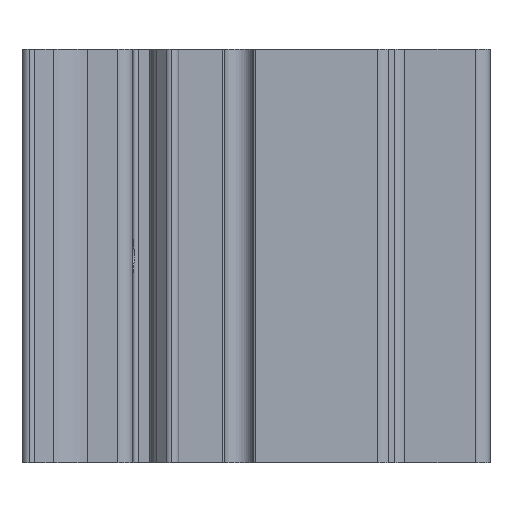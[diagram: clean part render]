
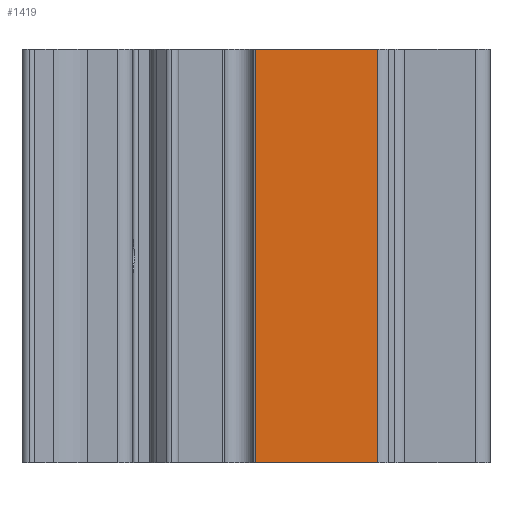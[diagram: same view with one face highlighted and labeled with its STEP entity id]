
A CAD part, left-side view. The second image highlights one B-rep face of the part: STEP entity #1419.
In plain terms, the highlighted planar face has unit normal (-1, 0, 0).
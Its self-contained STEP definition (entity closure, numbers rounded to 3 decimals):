
#211 = CARTESIAN_POINT ( 'NONE',  ( -25.5, 22.82, -42. ) ) ;
#240 = CARTESIAN_POINT ( 'NONE',  ( -25.5, 22.82, -42. ) ) ;
#271 = CARTESIAN_POINT ( 'NONE',  ( -25.5, 22.82, 42. ) ) ;
#329 = DIRECTION ( 'NONE',  ( 0., 0., -1. ) ) ;
#334 = CARTESIAN_POINT ( 'NONE',  ( -25.5, 22.82, 42. ) ) ;
#456 = EDGE_LOOP ( 'NONE', ( #1467, #1596, #1319, #1677 ) ) ;
#597 = LINE ( 'NONE', #795, #2230 ) ;
#647 = CARTESIAN_POINT ( 'NONE',  ( -25.5, 22.82, 42. ) ) ;
#709 = CARTESIAN_POINT ( 'NONE',  ( -25.5, 47.77, 42. ) ) ;
#795 = CARTESIAN_POINT ( 'NONE',  ( -25.5, 22.82, 42. ) ) ;
#943 = VERTEX_POINT ( 'NONE', #1608 ) ;
#1039 = VECTOR ( 'NONE', #329, 1000. ) ;
#1186 = LINE ( 'NONE', #211, #1326 ) ;
#1214 = VERTEX_POINT ( 'NONE', #2164 ) ;
#1319 = ORIENTED_EDGE ( 'NONE', *, *, #1773, .F. ) ;
#1326 = VECTOR ( 'NONE', #1970, 1000. ) ;
#1419 = ADVANCED_FACE ( 'NONE', ( #2088 ), #2207, .F. ) ;
#1467 = ORIENTED_EDGE ( 'NONE', *, *, #2283, .T. ) ;
#1538 = DIRECTION ( 'NONE',  ( 0., 0., -1. ) ) ;
#1596 = ORIENTED_EDGE ( 'NONE', *, *, #2198, .F. ) ;
#1608 = CARTESIAN_POINT ( 'NONE',  ( -25.5, 47.77, -42. ) ) ;
#1631 = VECTOR ( 'NONE', #2172, 1000. ) ;
#1677 = ORIENTED_EDGE ( 'NONE', *, *, #2017, .T. ) ;
#1773 = EDGE_CURVE ( 'NONE', #1214, #1917, #2391, .T. ) ;
#1800 = VERTEX_POINT ( 'NONE', #240 ) ;
#1854 = AXIS2_PLACEMENT_3D ( 'NONE', #334, #2043, #2409 ) ;
#1860 = LINE ( 'NONE', #709, #1039 ) ;
#1917 = VERTEX_POINT ( 'NONE', #271 ) ;
#1970 = DIRECTION ( 'NONE',  ( 0., -1., 0. ) ) ;
#2017 = EDGE_CURVE ( 'NONE', #1214, #943, #1860, .T. ) ;
#2043 = DIRECTION ( 'NONE',  ( 1., 0., 0. ) ) ;
#2088 = FACE_OUTER_BOUND ( 'NONE', #456, .T. ) ;
#2164 = CARTESIAN_POINT ( 'NONE',  ( -25.5, 47.77, 42. ) ) ;
#2172 = DIRECTION ( 'NONE',  ( 0., -1., 0. ) ) ;
#2198 = EDGE_CURVE ( 'NONE', #1917, #1800, #597, .T. ) ;
#2207 = PLANE ( 'NONE',  #1854 ) ;
#2230 = VECTOR ( 'NONE', #1538, 1000. ) ;
#2283 = EDGE_CURVE ( 'NONE', #943, #1800, #1186, .T. ) ;
#2391 = LINE ( 'NONE', #647, #1631 ) ;
#2409 = DIRECTION ( 'NONE',  ( 0., 0., -1. ) ) ;
